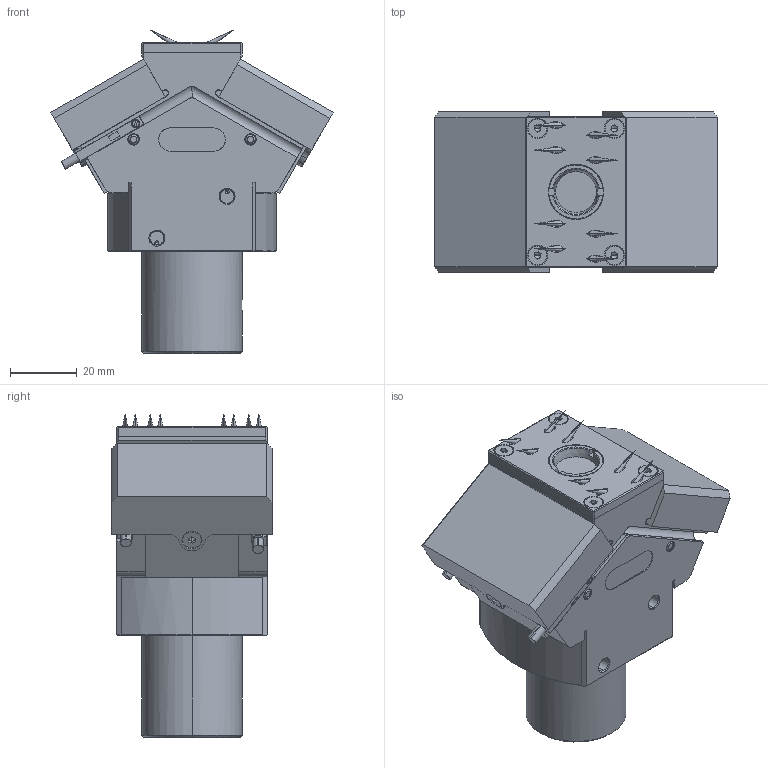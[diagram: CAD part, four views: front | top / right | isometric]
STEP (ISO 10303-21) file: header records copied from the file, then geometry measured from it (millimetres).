
FILE_DESCRIPTION (( 'STEP AP203' ), '1' );
FILE_NAME ('1.STEP', '2024-09-04T01:28:15', ( '微软用户' ), ( '微软中国' ), 'SwSTEP 2.0', 'SolidWorks 2018', '' );
FILE_SCHEMA (( 'CONFIG_CONTROL_DESIGN' ));
Length unit declared in the file: millimetre
Products named in the file (1): 1
Bounding box: 84.5 x 48 x 97 mm (x, y, z)
Volume: 170238 mm3; surface area: 49775.6 mm2
Topology: 21 solids, 22 shells, 870 faces, 2205 edges, 1385 vertices
Faces by surface type: plane 383, cylinder 281, cone 174, bspline 32
Entity records: 34324 total; most frequent: CARTESIAN_POINT 13996, ORIENTED_EDGE 4318, DIRECTION 4002, EDGE_CURVE 2159, AXIS2_PLACEMENT_3D 1416, VERTEX_POINT 1385, LINE 1170, VECTOR 1170
